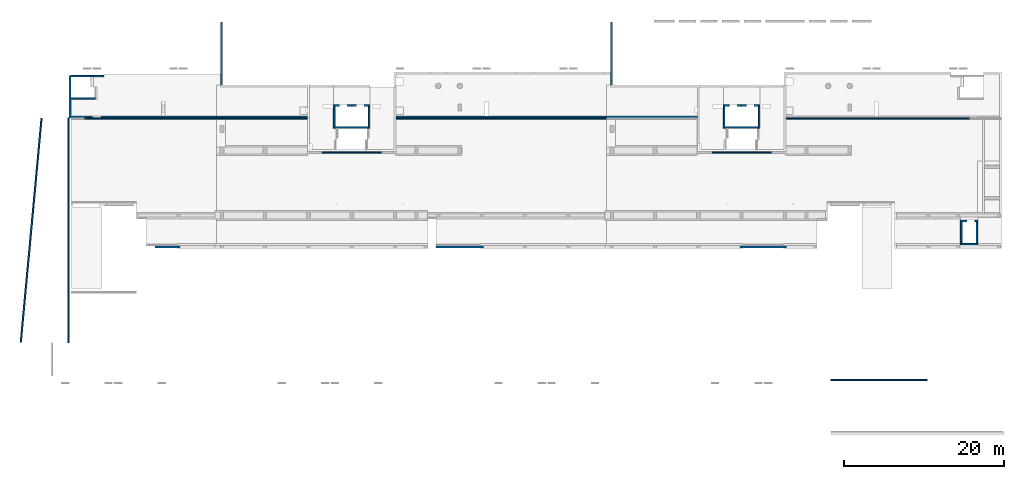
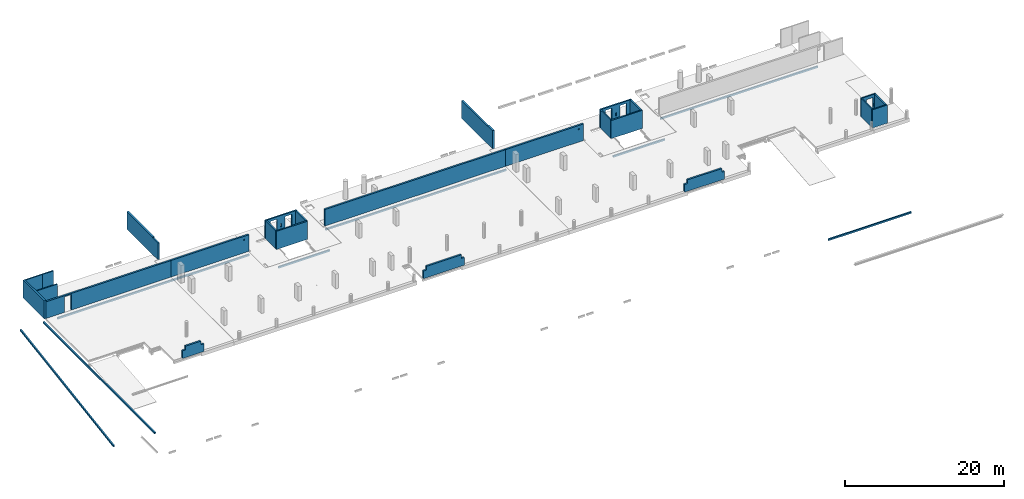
# One storey, part 6 of 10: 34 walls, 21 openings.
"""IFC2X3 building model written with IfcOpenShell, lengths in millimetres."""

import ifcopenshell
import ifcopenshell.guid

model = None  # the IFC model being written
_history = None  # IfcOwnerHistory: only IFC2X3 demands one
_inside = {}  # id of a spatial element -> (the spatial element, [elements in it])
_under = {}  # id of a project, library or spatial element -> (it, [spatial elements below it])
_declared = {}  # id of a project -> (the project, [libraries it declares])
_typed = {}  # id of a type object -> (the type object, [elements of that type])
_made_of = {}  # id of a material, layer set ... -> (it, [elements and type objects made of it])


def new_model(schema):
    """Start an empty IFC model of exactly this schema.

    Asked for "IFC4X3", IfcOpenShell would pick the latest addendum, in which some entities
    have other attributes; the version numbers below select the first issue.
    IFC2X3 requires an IfcOwnerHistory on every rooted entity: one is made here for all.
    """
    global model, _history
    if schema == "IFC4X3":
        model = ifcopenshell.file(schema_version=(4, 3, 0, 0))
    else:
        model = ifcopenshell.file(schema=schema)
    _inside.clear()
    _under.clear()
    _declared.clear()
    _typed.clear()
    _made_of.clear()
    _history = None
    if model.schema == "IFC2X3":
        org = make("IfcOrganization", Name="unknown")
        user = make(
            "IfcPersonAndOrganization",
            ThePerson=make("IfcPerson", FamilyName="unknown"),
            TheOrganization=org,
        )
        app = make(
            "IfcApplication",
            ApplicationDeveloper=org,
            Version="unknown",
            ApplicationFullName="unknown",
            ApplicationIdentifier="unknown",
        )
        _history = make(
            "IfcOwnerHistory",
            OwningUser=user,
            OwningApplication=app,
            ChangeAction="ADDED",
            CreationDate=0,
        )
    return model


def make(cls, **values):
    """One entity of the class cls with the attributes given. An attribute that is None is left unset."""
    return model.create_entity(
        cls, **{name: value for name, value in values.items() if value is not None}
    )


def entity(cls, *values):
    """Any entity or typed value of the class cls, its attributes in the order of the schema. None: left unset."""
    e = model.create_entity(cls)
    for i, value in enumerate(values):
        if value is not None:
            e[i] = value
    return e


def rooted(cls, **values):
    """An entity with a GlobalId (a new one), such as an element, a storey or a relation."""
    return make(cls, GlobalId=ifcopenshell.guid.new(), OwnerHistory=_history, **values)


def si_unit(unit_type, name, prefix=None):
    """IfcSIUnit, for example si_unit("LENGTHUNIT", "METRE", prefix="MILLI")."""
    return make("IfcSIUnit", UnitType=unit_type, Prefix=prefix, Name=name)


def converted_unit(unit_type, name, factor, base, dimensions=None, offset=None):
    """IfcConversionBasedUnit, such as the inch: factor (a typed value) times the base unit."""
    return make(
        "IfcConversionBasedUnit"
        if offset is None
        else "IfcConversionBasedUnitWithOffset",
        ConversionOffset=offset,
        Dimensions=None
        if dimensions is None
        else entity("IfcDimensionalExponents", *dimensions),
        UnitType=unit_type,
        Name=name,
        ConversionFactor=make(
            "IfcMeasureWithUnit", ValueComponent=factor, UnitComponent=base
        ),
    )


def derived_unit(unit_type, elements):
    """IfcDerivedUnit: a product of units, each with its exponent."""
    return make(
        "IfcDerivedUnit",
        Elements=[
            make("IfcDerivedUnitElement", Unit=unit, Exponent=power)
            for unit, power in elements
        ],
        UnitType=unit_type,
    )


def assignment(units):
    """IfcUnitAssignment: the units of a project."""
    return None if units is None else make("IfcUnitAssignment", Units=units)


def point(xyz):
    """IfcCartesianPoint."""
    return None if xyz is None else make("IfcCartesianPoint", Coordinates=xyz)


def direction(xyz):
    """IfcDirection."""
    return None if xyz is None else make("IfcDirection", DirectionRatios=xyz)


def frame(location, z_axis=None, x_axis=None):
    """IfcAxis2Placement3D, a coordinate frame: its origin and axes. An axis left out is left unset."""
    return make(
        "IfcAxis2Placement3D",
        Location=point(location),
        Axis=direction(z_axis),
        RefDirection=direction(x_axis),
    )


def frame_2d(location, x_axis=None):
    """IfcAxis2Placement2D, a coordinate frame in the plane: its origin and x axis."""
    return make(
        "IfcAxis2Placement2D", Location=point(location), RefDirection=direction(x_axis)
    )


def origin():
    """The frame at (0, 0, 0) with its axes left unset."""
    return frame((0.0, 0.0, 0.0))


def origin_2d_with_axis():
    """The frame at (0, 0) in the plane with the x axis (1, 0) written out."""
    return frame_2d((0.0, 0.0), x_axis=(1.0, 0.0))


def place(relative_to, where):
    """IfcLocalPlacement: puts the frame where relative to a parent placement (None: the world)."""
    return make(
        "IfcLocalPlacement", PlacementRelTo=relative_to, RelativePlacement=where
    )


def context(
    kind, dimensions, precision=None, world=None, true_north=None, identifier=None
):
    """IfcGeometricRepresentationContext, for example the 3D "Model" context."""
    return make(
        "IfcGeometricRepresentationContext",
        ContextIdentifier=identifier,
        ContextType=kind,
        CoordinateSpaceDimension=dimensions,
        Precision=precision,
        WorldCoordinateSystem=world,
        TrueNorth=true_north,
    )


def subcontext(parent, identifier, kind, view, scale=None):
    """IfcGeometricRepresentationSubContext, for example "Body" below "Model"."""
    return make(
        "IfcGeometricRepresentationSubContext",
        ContextIdentifier=identifier,
        ContextType=kind,
        ParentContext=parent,
        TargetScale=scale,
        TargetView=view,
    )


def project(units=None, contexts=None):
    """IfcProject with its units and contexts."""
    return rooted(
        "IfcProject",
        Name="project",
        RepresentationContexts=contexts,
        UnitsInContext=assignment(units),
    )


def spatial(cls, under=None, at=None, **own):
    """A site, building, storey or space (cls), placed at a placement, below another one or the project."""
    s = rooted(cls, ObjectPlacement=at, **own)
    if under is not None:
        _under.setdefault(under.id(), (under, []))[1].append(s)
    return s


def polyline(points):
    """IfcPolyline through the points."""
    return make("IfcPolyline", Points=[point(p) for p in points])


def profile(cls, at=None, kind="AREA", **sizes):
    """A parametric profile (cls). Its sizes go by their IFC names, for example OverallWidth=200.0."""
    return make(cls, ProfileType=kind, Position=at, **sizes)


def rectangle(**sizes):
    """IfcRectangleProfileDef."""
    return profile("IfcRectangleProfileDef", **sizes)


def circle(**sizes):
    """IfcCircleProfileDef."""
    return profile("IfcCircleProfileDef", **sizes)


def extrude(swept, where, along, depth):
    """IfcExtrudedAreaSolid: the profile swept, set in the frame where, extruded along a direction by depth."""
    return make(
        "IfcExtrudedAreaSolid",
        SweptArea=swept,
        Position=where,
        ExtrudedDirection=direction(along),
        Depth=depth,
    )


def clip(a, b, op="DIFFERENCE"):
    """IfcBooleanClippingResult: the solid a cut by the half space b."""
    return make(
        "IfcBooleanClippingResult", Operator=op, FirstOperand=a, SecondOperand=b
    )


def halfspace(plane, agree):
    """IfcHalfSpaceSolid: all space on one side of the plane z = 0 of the frame plane."""
    return make(
        "IfcHalfSpaceSolid",
        BaseSurface=make("IfcPlane", Position=plane),
        AgreementFlag=agree,
    )


def bounded_halfspace(plane, agree, where, boundary):
    """IfcPolygonalBoundedHalfSpace: a half space limited to a polygon's prism."""
    return make(
        "IfcPolygonalBoundedHalfSpace",
        BaseSurface=make("IfcPlane", Position=plane),
        AgreementFlag=agree,
        Position=where,
        PolygonalBoundary=boundary,
    )


def shape(context_of_items, identifier, shape_type, items):
    """IfcShapeRepresentation: the items that make up one representation, for example the "Body"."""
    return make(
        "IfcShapeRepresentation",
        ContextOfItems=context_of_items,
        RepresentationIdentifier=identifier,
        RepresentationType=shape_type,
        Items=items,
    )


def material(Name=None, Category=None):
    """IfcMaterial."""
    return make("IfcMaterial", Name=Name, Category=Category)


def layer(
    of_material, thickness, ventilated=None, Name=None, Category=None, Priority=None
):
    """IfcMaterialLayer: one layer of a wall or slab, of a material (None: an air gap)."""
    return make(
        "IfcMaterialLayer",
        Material=of_material,
        LayerThickness=thickness,
        IsVentilated=ventilated,
        Name=Name,
        Category=Category,
        Priority=Priority,
    )


def layer_set(layers, Name=None):
    """IfcMaterialLayerSet."""
    return make("IfcMaterialLayerSet", MaterialLayers=layers, LayerSetName=Name)


def layer_usage(for_layer_set, set_direction, sense, offset, extent=None):
    """IfcMaterialLayerSetUsage: how a layer set lies in its element."""
    return make(
        "IfcMaterialLayerSetUsage",
        ForLayerSet=for_layer_set,
        LayerSetDirection=set_direction,
        DirectionSense=sense,
        OffsetFromReferenceLine=offset,
        ReferenceExtent=extent,
    )


def made_of(thing, what):
    """Note that an element or type object is made of a material, layer set ...; save() writes the relation."""
    if what is not None:
        _made_of.setdefault(what.id(), (what, []))[1].append(thing)
    return thing


def type_object(cls, material=None, **own):
    """A type object (cls), such as IfcWallType, which elements share."""
    return made_of(rooted(cls, **own), material)


def element(
    cls,
    number,
    at=None,
    inside=None,
    cuts=None,
    type_object=None,
    material=None,
    context=None,
    identifier="Body",
    shape_type=None,
    held_by="IfcProductDefinitionShape",
    body=None,
    shapes=None,
    **own,
):
    """One element of the class cls, such as IfcWall. Its Tag is "e" and its number.

    at: its placement. inside: the storey or other place that contains it. cuts: it is an
    opening in that element (IfcRelVoidsElement). A single representation is given by context,
    identifier, shape_type and body (its items); several are given by shapes. held_by: the class
    of the entity that holds the representations. save() writes the other relations.
    """
    e = rooted(cls, Tag="e%d" % number, ObjectPlacement=at, **own)
    if body is not None:
        shapes = [shape(context, identifier, shape_type, body)]
    if shapes is not None:
        e.Representation = make(held_by, Representations=shapes)
    if inside is not None:
        _inside.setdefault(inside.id(), (inside, []))[1].append(e)
    if cuts is not None:
        rooted(
            "IfcRelVoidsElement", RelatingBuildingElement=cuts, RelatedOpeningElement=e
        )
    if type_object is not None:
        _typed.setdefault(type_object.id(), (type_object, []))[1].append(e)
    return made_of(e, material)


def aggregate(whole, parts):
    """IfcRelAggregates: a whole, such as a stair, and the parts it consists of."""
    return rooted("IfcRelAggregates", RelatingObject=whole, RelatedObjects=parts)


def save(model, path):
    """Write the relations noted so far, then the file.

    IfcRelAggregates (storeys below a building ...), IfcRelContainedInSpatialStructure (elements
    in a storey), IfcRelDefinesByType, IfcRelAssociatesMaterial and IfcRelDeclares: one each for
    every whole, place, type object, material and project.
    """
    for whole, parts in _under.values():
        aggregate(whole, parts)
    for where, things in _inside.values():
        rooted(
            "IfcRelContainedInSpatialStructure",
            RelatedElements=things,
            RelatingStructure=where,
        )
    for kind, things in _typed.values():
        rooted("IfcRelDefinesByType", RelatedObjects=things, RelatingType=kind)
    for what, things in _made_of.values():
        rooted("IfcRelAssociatesMaterial", RelatedObjects=things, RelatingMaterial=what)
    for by, libraries in _declared.values():
        rooted("IfcRelDeclares", RelatingContext=by, RelatedDefinitions=libraries)
    model.write(path)


model = new_model("IFC2X3")

# Units and contexts
model_context = context("Model", 3, precision=0.01, world=origin(), true_north=direction((6.12303176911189e-17, 1.0)))
body_context = subcontext(model_context, "Body", "Model", "MODEL_VIEW")
ifc_project = project(units=[si_unit("LENGTHUNIT", "METRE", prefix="MILLI"), si_unit("AREAUNIT", "SQUARE_METRE"), si_unit("VOLUMEUNIT", "CUBIC_METRE"), converted_unit("PLANEANGLEUNIT", "DEGREE", entity("IfcRatioMeasure", 0.0174532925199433), si_unit("PLANEANGLEUNIT", "RADIAN"), dimensions=[0, 0, 0, 0, 0, 0, 0]), si_unit("MASSUNIT", "GRAM", prefix="KILO"), derived_unit("MASSDENSITYUNIT", [(si_unit("MASSUNIT", "GRAM", prefix="KILO"), 1), (si_unit("LENGTHUNIT", "METRE"), -3)]), si_unit("TIMEUNIT", "SECOND"), si_unit("FREQUENCYUNIT", "HERTZ"), si_unit("THERMODYNAMICTEMPERATUREUNIT", "DEGREE_CELSIUS"), derived_unit("THERMALTRANSMITTANCEUNIT", [(si_unit("MASSUNIT", "GRAM", prefix="KILO"), 1), (si_unit("THERMODYNAMICTEMPERATUREUNIT", "KELVIN"), -1), (si_unit("TIMEUNIT", "SECOND"), -3)]), derived_unit("VOLUMETRICFLOWRATEUNIT", [(si_unit("LENGTHUNIT", "METRE"), 3), (si_unit("TIMEUNIT", "SECOND"), -1)]), si_unit("ELECTRICCURRENTUNIT", "AMPERE"), si_unit("ELECTRICVOLTAGEUNIT", "VOLT"), si_unit("POWERUNIT", "WATT"), si_unit("FORCEUNIT", "NEWTON", prefix="KILO"), si_unit("ILLUMINANCEUNIT", "LUX"), si_unit("LUMINOUSFLUXUNIT", "LUMEN"), si_unit("LUMINOUSINTENSITYUNIT", "CANDELA"), derived_unit("USERDEFINED", [(si_unit("MASSUNIT", "GRAM", prefix="KILO"), -1), (si_unit("LENGTHUNIT", "METRE"), -2), (si_unit("TIMEUNIT", "SECOND"), 3), (si_unit("LUMINOUSFLUXUNIT", "LUMEN"), 1)]), derived_unit("LINEARVELOCITYUNIT", [(si_unit("LENGTHUNIT", "METRE"), 1), (si_unit("TIMEUNIT", "SECOND"), -1)]), si_unit("PRESSUREUNIT", "PASCAL"), derived_unit("USERDEFINED", [(si_unit("LENGTHUNIT", "METRE"), -2), (si_unit("MASSUNIT", "GRAM", prefix="KILO"), 1), (si_unit("TIMEUNIT", "SECOND"), -2)])], contexts=[model_context])

# Site, building, storey
site_placement = place(None, origin())
site = spatial("IfcSite", under=ifc_project, at=site_placement, Name="Default", CompositionType="ELEMENT")
building_placement = place(site_placement, origin())
building = spatial("IfcBuilding", under=site, at=building_placement, Name="niet gebruiken", CompositionType="ELEMENT")
storey_placement = place(building_placement, frame((0.0, 0.0, 6610.0)))
storey = spatial("IfcBuildingStorey", under=building, at=storey_placement, Name="01c derde tussenverdieping", CompositionType="ELEMENT", Elevation=6610.0)

# Wall, opening
ifc_material_1 = material(Name="NLRS_f2_beton ihwg")
ifc_layer_1 = layer(ifc_material_1, 250.0)
ifc_layer_set_1 = layer_set([ifc_layer_1], Name="Basic Wall:NLRS_22.21_WA_beton ihwg d=250_gen")
ifc_layer_usage_1 = layer_usage(ifc_layer_set_1, "AXIS2", "NEGATIVE", 125.0)
wall_type_1 = type_object("IfcWallType", Name="Basic Wall:NLRS_22.21_WA_beton ihwg d=250_gen", PredefinedType="STANDARD", material=ifc_layer_set_1)
wall_1_placement = place(storey_placement, frame((86275.0, 41186.0, 0.0), z_axis=(0.0, 0.0, 1.0), x_axis=(-1.0, 0.0, 0.0)))
wall_1 = element("IfcWallStandardCase", 1, at=wall_1_placement, inside=storey, type_object=wall_type_1, material=ifc_layer_usage_1, Name="Basic Wall:NLRS_22.21_WA_beton ihwg d=250_gen", ObjectType="Basic Wall:NLRS_22.21_WA_beton ihwg d=250_gen", context=body_context, shape_type="SweptSolid", body=[
    extrude(rectangle(XDim=11305.0000000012, YDim=249.999999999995, at=frame_2d((5652.5000000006, 2.91322521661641e-12), x_axis=(-1.0, 0.0))), origin(), (0.0, 0.0, 1.0), 2550.0),
])
opening_1_placement = place(wall_1_placement, origin())
element("IfcOpeningElement", 2, at=opening_1_placement, cuts=wall_1, Name="Basic Wall:NLRS_22.21_WA_beton ihwg d=250_gen", ObjectType="Opening", context=body_context, shape_type="SweptSolid", body=[
    extrude(circle(Radius=100.0, at=origin_2d_with_axis()), frame((700.0, -125.0, 1995.0), z_axis=(0.0, 1.0, 0.0), x_axis=(-1.0, 0.0, 0.0)), (0.0, 0.0, 1.0), 250.000000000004),
])

ifc_layer_usage_2 = layer_usage(ifc_layer_set_1, "AXIS2", "NEGATIVE", 125.0)
wall_2_placement = place(storey_placement, frame((37675.0, 41186.0, 0.0), z_axis=(0.0, 0.0, 1.0), x_axis=(-1.0, 0.0, 0.0)))
wall_2 = element("IfcWallStandardCase", 3, at=wall_2_placement, inside=storey, type_object=wall_type_1, material=ifc_layer_usage_2, Name="Basic Wall:NLRS_22.21_WA_beton ihwg d=250_gen", ObjectType="Basic Wall:NLRS_22.21_WA_beton ihwg d=250_gen", context=body_context, shape_type="SweptSolid", body=[
    extrude(rectangle(XDim=11304.9999999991, YDim=249.999999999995, at=frame_2d((5652.49999999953, -1.4210854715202e-12), x_axis=(-1.0, 0.0))), origin(), (0.0, 0.0, 1.0), 2550.0),
])
opening_2_placement = place(wall_2_placement, origin())
element("IfcOpeningElement", 4, at=opening_2_placement, cuts=wall_2, Name="Basic Wall:NLRS_22.21_WA_beton ihwg d=250_gen", ObjectType="Opening", context=body_context, shape_type="SweptSolid", body=[
    extrude(circle(Radius=100.0, at=origin_2d_with_axis()), frame((700.0, -125.0, 2015.0), z_axis=(0.0, 1.0, 0.0), x_axis=(-1.0, 0.0, 0.0)), (0.0, 0.0, 1.0), 250.000000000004),
])

# Wall, openings
ifc_layer_usage_3 = layer_usage(ifc_layer_set_1, "AXIS2", "NEGATIVE", 125.0)
wall_3_placement = place(storey_placement, frame((26975.0, 45176.0, -40.0), z_axis=(0.0, 0.0, 1.0), x_axis=(0.0, 1.0, 0.0)))
wall_3 = element("IfcWallStandardCase", 5, at=wall_3_placement, inside=storey, type_object=wall_type_1, material=ifc_layer_usage_3, Name="Basic Wall:NLRS_22.21_WA_beton ihwg d=250_gen", ObjectType="Basic Wall:NLRS_22.21_WA_beton ihwg d=250_gen", context=body_context, shape_type="Clipping", body=[
    clip(clip(clip(extrude(rectangle(XDim=7810.00000000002, YDim=250.000000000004, at=frame_2d((3905.00000000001, 2.55795384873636e-13), x_axis=(-1.0, 0.0))), origin(), (0.0, 0.0, 1.0), 2720.00000000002), bounded_halfspace(frame((1320.0, -125.0, 2590.0), z_axis=(0.0, 0.0, -1.0), x_axis=(0.0, -1.0, 0.0)), True, frame((1320.0, -125.0, 2590.0), z_axis=(0.0, 0.0, -1.0), x_axis=(0.0, -1.0, 0.0)), polyline([(0.0, 0.0), (1.04820685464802e-09, 1320.0), (-230.0, 1320.0), (-250.0, 1320.0), (-250.0, 0.0), (-230.0, 0.0), (0.0, 0.0)]))), bounded_halfspace(frame((1320.0, 125.0, 2590.0), z_axis=(1.0, 0.0, 0.0), x_axis=(0.0, 0.0, 1.0)), True, frame((1320.0, 125.0, 2590.0), z_axis=(1.0, 0.0, 0.0), x_axis=(0.0, 0.0, 1.0)), polyline([(0.0, 0.0), (130.0, 0.0), (130.0, 250.0), (0.0, 250.0), (0.0, 20.0), (0.0, 0.0)]))), halfspace(frame((1320.0, 0.0, 2840.0), z_axis=(0.0, 0.0, 1.0), x_axis=(0.0, -1.0, 0.0)), False)),
])
opening_3_placement = place(wall_3_placement, origin())
element("IfcOpeningElement", 6, at=opening_3_placement, cuts=wall_3, Name="Basic Wall:NLRS_22.21_WA_beton ihwg d=250_gen", ObjectType="Opening", context=body_context, shape_type="SweptSolid", body=[
    extrude(rectangle(XDim=119.999999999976, YDim=6490.00000000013, at=frame_2d((-5.40012479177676e-13, 4.32009983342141e-12), x_axis=(1.0, 0.0))), frame((4565.0, 125.0, 2780.0), z_axis=(0.0, -1.0, 0.0), x_axis=(0.0, 0.0, -1.0)), (0.0, 0.0, 1.0), 250.0),
])
opening_4_placement = place(wall_3_placement, origin())
element("IfcOpeningElement", 7, at=opening_4_placement, cuts=wall_3, Name="Basic Wall:NLRS_22.21_WA_beton ihwg d=250_gen", ObjectType="Opening", context=body_context, shape_type="SweptSolid", body=[
    extrude(rectangle(XDim=39.9999999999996, YDim=1320.00000000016, at=frame_2d((0.0, -4.37694325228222e-12), x_axis=(1.0, 0.0))), frame((660.0, 125.0, 20.0), z_axis=(0.0, -1.0, 0.0), x_axis=(0.0, 0.0, 1.0)), (0.0, 0.0, 1.0), 250.0),
])

# Wall, opening
ifc_layer_usage_4 = layer_usage(ifc_layer_set_1, "AXIS2", "NEGATIVE", 125.0)
wall_4_placement = place(storey_placement, frame((26350.0, 41186.0, 0.0), z_axis=(0.0, 0.0, 1.0), x_axis=(-1.0, 0.0, 0.0)))
wall_4 = element("IfcWallStandardCase", 8, at=wall_4_placement, inside=storey, type_object=wall_type_1, material=ifc_layer_usage_4, Name="Basic Wall:NLRS_22.21_WA_beton ihwg d=250_gen", ObjectType="Basic Wall:NLRS_22.21_WA_beton ihwg d=250_gen", context=body_context, shape_type="SweptSolid", body=[
    extrude(rectangle(XDim=18124.9999999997, YDim=249.999999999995, at=frame_2d((9062.49999999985, -1.30739863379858e-12), x_axis=(-1.0, 0.0))), origin(), (0.0, 0.0, 1.0), 2550.0),
])
opening_5_placement = place(wall_4_placement, origin())
element("IfcOpeningElement", 9, at=opening_5_placement, cuts=wall_4, Name="Basic Wall:NLRS_22.21_WA_beton ihwg d=250_gen", ObjectType="Opening", context=body_context, shape_type="SweptSolid", body=[
    extrude(rectangle(XDim=2380.0, YDim=1025.0, at=frame_2d((1.08002495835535e-12, 5.6843418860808e-13), x_axis=(0.0, 1.0))), frame((14937.5000000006, -1399.0, 1190.0), z_axis=(0.0, 1.0, 0.0), x_axis=(-1.0, 0.0, 0.0)), (0.0, 0.0, 1.0), 3048.0),
])

# Wall
ifc_layer_usage_5 = layer_usage(ifc_layer_set_1, "AXIS2", "NEGATIVE", 125.0)
wall_5_placement = place(storey_placement, frame((74950.0, 41186.0, 0.0), z_axis=(0.0, 0.0, 1.0), x_axis=(-1.0, 0.0, 0.0)))
element("IfcWallStandardCase", 10, at=wall_5_placement, inside=storey, type_object=wall_type_1, material=ifc_layer_usage_5, Name="Basic Wall:NLRS_22.21_WA_beton ihwg d=250_gen", ObjectType="Basic Wall:NLRS_22.21_WA_beton ihwg d=250_gen", context=body_context, shape_type="SweptSolid", body=[
    extrude(rectangle(XDim=26224.9999999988, YDim=249.999999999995, at=frame_2d((13112.4999999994, -2.26663132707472e-12), x_axis=(-1.0, 0.0))), origin(), (0.0, 0.0, 1.0), 2550.0),
])

# Wall, openings
ifc_layer_usage_6 = layer_usage(ifc_layer_set_1, "AXIS2", "NEGATIVE", 125.0)
wall_6_placement = place(storey_placement, frame((75575.0, 45176.0, -40.0), z_axis=(0.0, 0.0, 1.0), x_axis=(0.0, 1.0, 0.0)))
wall_6 = element("IfcWallStandardCase", 11, at=wall_6_placement, inside=storey, type_object=wall_type_1, material=ifc_layer_usage_6, Name="Basic Wall:NLRS_22.21_WA_beton ihwg d=250_gen", ObjectType="Basic Wall:NLRS_22.21_WA_beton ihwg d=250_gen", context=body_context, shape_type="Clipping", body=[
    clip(extrude(rectangle(XDim=7810.00000000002, YDim=249.999999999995, at=frame_2d((3905.00000000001, 2.42295072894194e-12), x_axis=(-1.0, 0.0))), origin(), (0.0, 0.0, 1.0), 2840.0), halfspace(frame((0.0, -125.0, 2840.0), z_axis=(0.0, 0.0, 1.0), x_axis=(0.0, 1.0, 0.0)), False)),
])
opening_6_placement = place(wall_6_placement, origin())
element("IfcOpeningElement", 12, at=opening_6_placement, cuts=wall_6, Name="Basic Wall:NLRS_22.21_WA_beton ihwg d=250_gen", ObjectType="Opening", context=body_context, shape_type="SweptSolid", body=[
    extrude(rectangle(XDim=119.999999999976, YDim=6490.00000000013, at=frame_2d((-5.40012479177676e-13, -4.32009983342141e-12), x_axis=(1.0, 0.0))), frame((4565.0, 125.0, 2780.0), z_axis=(0.0, -1.0, 0.0), x_axis=(0.0, 0.0, -1.0)), (0.0, 0.0, 1.0), 250.0),
])
opening_7_placement = place(wall_6_placement, origin())
element("IfcOpeningElement", 13, at=opening_7_placement, cuts=wall_6, Name="Basic Wall:NLRS_22.21_WA_beton ihwg d=250_gen", ObjectType="Opening", context=body_context, shape_type="SweptSolid", body=[
    extrude(rectangle(XDim=39.9999999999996, YDim=1320.00000000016, at=frame_2d((0.0, 4.37694325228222e-12), x_axis=(1.0, 0.0))), frame((660.0, 125.0, 20.0), z_axis=(0.0, -1.0, 0.0), x_axis=(0.0, 0.0, 1.0)), (0.0, 0.0, 1.0), 250.0),
])

# Walls
ifc_material_2 = material(Name="NLRS_f2_beton prefab")
ifc_layer_2 = layer(ifc_material_2, 250.0)
ifc_layer_set_2 = layer_set([ifc_layer_2], Name="Basic Wall:NLRS_22.21_WA_beton prefab d=250_gen")
ifc_layer_usage_7 = layer_usage(ifc_layer_set_2, "AXIS2", "NEGATIVE", 125.0)
wall_type_2 = type_object("IfcWallType", Name="Basic Wall:NLRS_22.21_WA_beton prefab d=250_gen", PredefinedType="STANDARD", material=ifc_layer_set_2)
wall_7_placement = place(storey_placement, frame((8100.0, 41061.0, 20.0), z_axis=(0.0, 0.0, 1.0), x_axis=(0.0, 1.0, 0.0)))
element("IfcWallStandardCase", 14, at=wall_7_placement, inside=storey, type_object=wall_type_2, material=ifc_layer_usage_7, Name="Basic Wall:NLRS_22.21_WA_beton prefab d=250_gen", ObjectType="Basic Wall:NLRS_22.21_WA_beton prefab d=250_gen", context=body_context, shape_type="SweptSolid", body=[
    extrude(rectangle(XDim=5294.99999999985, YDim=249.999999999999, at=frame_2d((2647.49999999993, 2.41584530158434e-13), x_axis=(-1.0, 0.0))), origin(), (0.0, 0.0, 1.0), 2780.0),
])
ifc_layer_3 = layer(ifc_material_2, 180.0)
ifc_layer_set_3 = layer_set([ifc_layer_3], Name="Basic Wall:NLRS_22.21_WA_beton prefab d=180_gen")
ifc_layer_usage_8 = layer_usage(ifc_layer_set_3, "AXIS2", "NEGATIVE", 90.0)
wall_type_3 = type_object("IfcWallType", Name="Basic Wall:NLRS_22.21_WA_beton prefab d=180_gen", PredefinedType="STANDARD", material=ifc_layer_set_3)
wall_8_placement = place(storey_placement, frame((10670.0, 46266.0, 20.0), z_axis=(0.0, 0.0, 1.0), x_axis=(-1.0, 0.0, 0.0)))
element("IfcWallStandardCase", 15, at=wall_8_placement, inside=storey, type_object=wall_type_3, material=ifc_layer_usage_8, Name="Basic Wall:NLRS_22.21_WA_beton prefab d=180_gen", ObjectType="Basic Wall:NLRS_22.21_WA_beton prefab d=180_gen", context=body_context, shape_type="SweptSolid", body=[
    extrude(rectangle(XDim=2445.00027841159, YDim=179.999999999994, at=frame_2d((1222.50013920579, 1.92557081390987e-12), x_axis=(-1.0, 0.0))), origin(), (0.0, 0.0, 1.0), 2780.0),
])
ifc_layer_usage_9 = layer_usage(ifc_layer_set_3, "AXIS2", "POSITIVE", -90.0)
wall_9_placement = place(storey_placement, frame((12274.9999049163, 46266.0, 20.0), z_axis=(0.0, 0.0, 1.0), x_axis=(-1.0, 0.0, 0.0)))
element("IfcWallStandardCase", 16, at=wall_9_placement, inside=storey, type_object=wall_type_3, material=ifc_layer_usage_9, Name="Basic Wall:NLRS_22.21_WA_beton prefab d=180_gen", ObjectType="Basic Wall:NLRS_22.21_WA_beton prefab d=180_gen", context=body_context, shape_type="SweptSolid", body=[
    extrude(rectangle(XDim=1604.99990491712, YDim=179.999999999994, at=frame_2d((802.499952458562, 0.0), x_axis=(-1.0, 0.0))), origin(), (0.0, 0.0, 1.0), 2780.00000000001),
])
ifc_layer_usage_10 = layer_usage(ifc_layer_set_3, "AXIS2", "NEGATIVE", 90.0)
wall_10_placement = place(storey_placement, frame((11250.0003666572, 43486.0, 20.0), z_axis=(0.0, 0.0, 1.0), x_axis=(-1.0, 0.0, 0.0)))
element("IfcWallStandardCase", 17, at=wall_10_placement, inside=storey, type_object=wall_type_3, material=ifc_layer_usage_10, Name="Basic Wall:NLRS_22.21_WA_beton prefab d=180_gen", ObjectType="Basic Wall:NLRS_22.21_WA_beton prefab d=180_gen", context=body_context, shape_type="SweptSolid", body=[
    extrude(rectangle(XDim=3025.00036665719, YDim=179.999999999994, at=frame_2d((1512.5001833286, -1.36424205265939e-12), x_axis=(-1.0, 0.0))), origin(), (0.0, 0.0, 1.0), 2780.0),
])
wall_type_4 = type_object("IfcWallType", Name="NLRS_21.21_SF_WPB_oplegnok prefabbeton_gen:200x250", PredefinedType="NOTDEFINED", material=ifc_material_2)
wall_11_placement = place(storey_placement, frame((7775.0, 13006.0, -550.0), z_axis=(0.0, 0.0, 1.0), x_axis=(0.0, 1.0, 0.0)))
element("IfcWall", 18, at=wall_11_placement, inside=storey, type_object=wall_type_4, material=ifc_material_2, Name="NLRS_21.21_SF_WPB_oplegnok prefabbeton_gen:200x250", ObjectType="NLRS_21.21_SF_WPB_oplegnok prefabbeton_gen:200x250", context=body_context, shape_type="SweptSolid", body=[
    extrude(rectangle(XDim=28035.0000000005, YDim=200.0, at=origin_2d_with_axis()), frame((14017.5000000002, -100.0, 0.0), z_axis=(0.0, 0.0, 1.0), x_axis=(-1.0, 0.0, 0.0)), (0.0, 0.0, 1.0), 250.000000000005),
])
wall_12_placement = place(storey_placement, frame((1848.69443190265, 13080.0121906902, -550.0), z_axis=(0.0, 0.0, 1.0), x_axis=(0.0, 1.0, 0.0)))
element("IfcWall", 19, at=wall_12_placement, inside=storey, type_object=wall_type_4, material=ifc_material_2, Name="NLRS_21.21_SF_WPB_oplegnok prefabbeton_gen:200x250", ObjectType="NLRS_21.21_SF_WPB_oplegnok prefabbeton_gen:200x250", context=body_context, shape_type="SweptSolid", body=[
    extrude(rectangle(XDim=200.0, YDim=28029.9419790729, at=frame_2d((26.6636108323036, 5.45696821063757e-12), x_axis=(1.0, 0.0))), frame((13961.9150324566, -1419.68659984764, 0.0), z_axis=(0.0, 0.0, 1.0), x_axis=(0.0922987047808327, 0.995731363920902, 0.0)), (0.0, 0.0, 1.0), 250.000000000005),
])
wall_13_placement = place(storey_placement, frame((102925.0, 8296.0, -1375.0)))
element("IfcWall", 20, at=wall_13_placement, inside=storey, type_object=wall_type_4, material=ifc_material_2, Name="NLRS_21.21_SF_WPB_oplegnok prefabbeton_gen:200x250", ObjectType="NLRS_21.21_SF_WPB_oplegnok prefabbeton_gen:200x250", context=body_context, shape_type="SweptSolid", body=[
    extrude(rectangle(XDim=12024.9999999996, YDim=200.0, at=frame_2d((-8.64019966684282e-12, 0.0), x_axis=(1.0, 0.0))), frame((6012.49999999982, 100.0, 0.0)), (0.0, 0.0, 1.0), 250.000000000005),
])

# Wall, openings
ifc_layer_4 = layer(ifc_material_2, 200.0)
ifc_layer_set_4 = layer_set([ifc_layer_4], Name="Basic Wall:NLRS_22.21_WA_beton prefab d=200_gen")
ifc_layer_usage_11 = layer_usage(ifc_layer_set_4, "AXIS2", "NEGATIVE", 100.0)
wall_type_5 = type_object("IfcWallType", Name="Basic Wall:NLRS_22.21_WA_beton prefab d=200_gen", PredefinedType="STANDARD", material=ifc_layer_set_4)
wall_14_placement = place(storey_placement, frame((40924.9998491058, 42596.0, -70.0)))
wall_14 = element("IfcWallStandardCase", 21, at=wall_14_placement, inside=storey, type_object=wall_type_5, material=ifc_layer_usage_11, Name="Basic Wall:NLRS_22.21_WA_beton prefab d=200_gen", ObjectType="Basic Wall:NLRS_22.21_WA_beton prefab d=200_gen", context=body_context, shape_type="SweptSolid", body=[
    extrude(rectangle(XDim=4549.9999999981, YDim=200.000000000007, at=frame_2d((2274.99999999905, 0.0), x_axis=(-1.0, 0.0))), origin(), (0.0, 0.0, 1.0), 2780.00000000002),
])
opening_8_placement = place(wall_14_placement, origin())
element("IfcOpeningElement", 22, at=opening_8_placement, cuts=wall_14, Name="Basic Wall:NLRS_22.21_WA_beton prefab d=200_gen", ObjectType="Opening", context=body_context, shape_type="SweptSolid", body=[
    extrude(rectangle(XDim=2430.0, YDim=980.000000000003, at=origin_2d_with_axis()), frame((1220.0, -1624.0, 1195.0), z_axis=(0.0, 1.0, 0.0), x_axis=(0.0, 0.0, 1.0)), (0.0, 0.0, 1.0), 3048.0),
])
opening_9_placement = place(wall_14_placement, origin())
element("IfcOpeningElement", 23, at=opening_9_placement, cuts=wall_14, Name="Basic Wall:NLRS_22.21_WA_beton prefab d=200_gen", ObjectType="Opening", context=body_context, shape_type="SweptSolid", body=[
    extrude(rectangle(XDim=2430.0, YDim=980.000000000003, at=origin_2d_with_axis()), frame((3330.0, -1624.0, 1195.0), z_axis=(0.0, 1.0, 0.0), x_axis=(0.0, 0.0, 1.0)), (0.0, 0.0, 1.0), 3048.0),
])
opening_10_placement = place(wall_14_placement, origin())
element("IfcOpeningElement", 24, at=opening_10_placement, cuts=wall_14, Name="Basic Wall:NLRS_22.21_WA_beton prefab d=200_gen", ObjectType="Opening", context=body_context, shape_type="SweptSolid", body=[
    extrude(rectangle(XDim=505.000000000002, YDim=135.000000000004, at=origin_2d_with_axis()), frame((2275.000150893, -1624.0, 1272.5), z_axis=(0.0, 1.0, 0.0), x_axis=(0.0, 0.0, 1.0)), (0.0, 0.0, 1.0), 3048.0),
])

# Walls
ifc_layer_usage_12 = layer_usage(ifc_layer_set_4, "AXIS2", "NEGATIVE", 100.0)
wall_15_placement = place(storey_placement, frame((41024.9998491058, 39946.0, -70.0), z_axis=(0.0, 0.0, 1.0), x_axis=(0.0, 1.0, 0.0)))
element("IfcWallStandardCase", 25, at=wall_15_placement, inside=storey, type_object=wall_type_5, material=ifc_layer_usage_12, Name="Basic Wall:NLRS_22.21_WA_beton prefab d=200_gen", ObjectType="Basic Wall:NLRS_22.21_WA_beton prefab d=200_gen", context=body_context, shape_type="SweptSolid", body=[
    extrude(rectangle(XDim=2549.99999999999, YDim=200.000000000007, at=frame_2d((1275.0, 0.0), x_axis=(-1.0, 0.0))), origin(), (0.0, 0.0, 1.0), 2780.00000000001),
])
ifc_layer_usage_13 = layer_usage(ifc_layer_set_4, "AXIS2", "NEGATIVE", 100.0)
wall_16_placement = place(storey_placement, frame((45374.9998491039, 42496.0, -70.0), z_axis=(0.0, 0.0, 1.0), x_axis=(0.0, -1.0, 0.0)))
element("IfcWallStandardCase", 26, at=wall_16_placement, inside=storey, type_object=wall_type_5, material=ifc_layer_usage_13, Name="Basic Wall:NLRS_22.21_WA_beton prefab d=200_gen", ObjectType="Basic Wall:NLRS_22.21_WA_beton prefab d=200_gen", context=body_context, shape_type="SweptSolid", body=[
    extrude(rectangle(XDim=2549.99999999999, YDim=200.000000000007, at=frame_2d((1275.0, 2.34479102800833e-13), x_axis=(-1.0, 0.0))), origin(), (0.0, 0.0, 1.0), 2780.00000000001),
])
ifc_layer_usage_14 = layer_usage(ifc_layer_set_4, "AXIS2", "NEGATIVE", 100.0)
wall_17_placement = place(storey_placement, frame((45474.999849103, 39846.0, -70.0), z_axis=(0.0, 0.0, 1.0), x_axis=(-1.0, 0.0, 0.0)))
element("IfcWallStandardCase", 27, at=wall_17_placement, inside=storey, type_object=wall_type_5, material=ifc_layer_usage_14, Name="Basic Wall:NLRS_22.21_WA_beton prefab d=200_gen", ObjectType="Basic Wall:NLRS_22.21_WA_beton prefab d=200_gen", context=body_context, shape_type="SweptSolid", body=[
    extrude(rectangle(XDim=4549.99999999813, YDim=200.000000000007, at=frame_2d((2274.99999999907, 0.0), x_axis=(-1.0, 0.0))), origin(), (0.0, 0.0, 1.0), 2780.00000000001),
])

# Wall, openings
ifc_layer_usage_15 = layer_usage(ifc_layer_set_4, "AXIS2", "NEGATIVE", 100.0)
wall_18_placement = place(storey_placement, frame((89525.0, 42596.0, -70.0)))
wall_18 = element("IfcWallStandardCase", 28, at=wall_18_placement, inside=storey, type_object=wall_type_5, material=ifc_layer_usage_15, Name="Basic Wall:NLRS_22.21_WA_beton prefab d=200_gen", ObjectType="Basic Wall:NLRS_22.21_WA_beton prefab d=200_gen", context=body_context, shape_type="SweptSolid", body=[
    extrude(rectangle(XDim=4549.9999999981, YDim=200.000000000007, at=frame_2d((2274.99999999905, 0.0), x_axis=(-1.0, 0.0))), origin(), (0.0, 0.0, 1.0), 2780.00000000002),
])
opening_11_placement = place(wall_18_placement, origin())
element("IfcOpeningElement", 29, at=opening_11_placement, cuts=wall_18, Name="Basic Wall:NLRS_22.21_WA_beton prefab d=200_gen", ObjectType="Opening", context=body_context, shape_type="SweptSolid", body=[
    extrude(rectangle(XDim=2430.0, YDim=980.000000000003, at=frame_2d((0.0, 8.66862137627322e-12), x_axis=(1.0, 0.0))), frame((3330.0, -1624.0, 1195.0), z_axis=(0.0, 1.0, 0.0), x_axis=(0.0, 0.0, 1.0)), (0.0, 0.0, 1.0), 3048.0),
])
opening_12_placement = place(wall_18_placement, origin())
element("IfcOpeningElement", 30, at=opening_12_placement, cuts=wall_18, Name="Basic Wall:NLRS_22.21_WA_beton prefab d=200_gen", ObjectType="Opening", context=body_context, shape_type="SweptSolid", body=[
    extrude(rectangle(XDim=2430.0, YDim=980.000000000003, at=frame_2d((0.0, -8.66862137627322e-12), x_axis=(1.0, 0.0))), frame((1220.0, -1624.0, 1195.0), z_axis=(0.0, 1.0, 0.0), x_axis=(0.0, 0.0, 1.0)), (0.0, 0.0, 1.0), 3048.0),
])
opening_13_placement = place(wall_18_placement, origin())
element("IfcOpeningElement", 31, at=opening_13_placement, cuts=wall_18, Name="Basic Wall:NLRS_22.21_WA_beton prefab d=200_gen", ObjectType="Opening", context=body_context, shape_type="SweptSolid", body=[
    extrude(rectangle(XDim=505.000000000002, YDim=135.000000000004, at=frame_2d((0.0, 8.66151594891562e-12), x_axis=(1.0, 0.0))), frame((2275.000150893, -1624.0, 1272.5), z_axis=(0.0, 1.0, 0.0), x_axis=(0.0, 0.0, 1.0)), (0.0, 0.0, 1.0), 3048.0),
])

# Walls
ifc_layer_usage_16 = layer_usage(ifc_layer_set_4, "AXIS2", "NEGATIVE", 100.0)
wall_19_placement = place(storey_placement, frame((89625.0, 39946.0, -70.0), z_axis=(0.0, 0.0, 1.0), x_axis=(0.0, 1.0, 0.0)))
element("IfcWallStandardCase", 32, at=wall_19_placement, inside=storey, type_object=wall_type_5, material=ifc_layer_usage_16, Name="Basic Wall:NLRS_22.21_WA_beton prefab d=200_gen", ObjectType="Basic Wall:NLRS_22.21_WA_beton prefab d=200_gen", context=body_context, shape_type="SweptSolid", body=[
    extrude(rectangle(XDim=2549.99999999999, YDim=199.999999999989, at=frame_2d((1275.0, 0.0), x_axis=(-1.0, 0.0))), origin(), (0.0, 0.0, 1.0), 2780.00000000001),
])
ifc_layer_usage_17 = layer_usage(ifc_layer_set_4, "AXIS2", "NEGATIVE", 100.0)
wall_20_placement = place(storey_placement, frame((93975.0, 42496.0, -70.0), z_axis=(0.0, 0.0, 1.0), x_axis=(0.0, -1.0, 0.0)))
element("IfcWallStandardCase", 33, at=wall_20_placement, inside=storey, type_object=wall_type_5, material=ifc_layer_usage_17, Name="Basic Wall:NLRS_22.21_WA_beton prefab d=200_gen", ObjectType="Basic Wall:NLRS_22.21_WA_beton prefab d=200_gen", context=body_context, shape_type="SweptSolid", body=[
    extrude(rectangle(XDim=2549.99999999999, YDim=199.999999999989, at=frame_2d((1275.0, -4.09272615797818e-12), x_axis=(-1.0, 0.0))), origin(), (0.0, 0.0, 1.0), 2780.00000000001),
])
ifc_layer_usage_18 = layer_usage(ifc_layer_set_4, "AXIS2", "NEGATIVE", 100.0)
wall_21_placement = place(storey_placement, frame((94075.0, 39846.0, -70.0), z_axis=(0.0, 0.0, 1.0), x_axis=(-1.0, 0.0, 0.0)))
element("IfcWallStandardCase", 34, at=wall_21_placement, inside=storey, type_object=wall_type_5, material=ifc_layer_usage_18, Name="Basic Wall:NLRS_22.21_WA_beton prefab d=200_gen", ObjectType="Basic Wall:NLRS_22.21_WA_beton prefab d=200_gen", context=body_context, shape_type="SweptSolid", body=[
    extrude(rectangle(XDim=4549.99999999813, YDim=200.000000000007, at=frame_2d((2274.99999999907, 0.0), x_axis=(-1.0, 0.0))), origin(), (0.0, 0.0, 1.0), 2780.00000000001),
])
ifc_layer_usage_19 = layer_usage(ifc_layer_set_4, "AXIS2", "NEGATIVE", 100.0)
wall_22_placement = place(storey_placement, frame((121225.0, 25326.0, 30.0), z_axis=(0.0, 0.0, 1.0), x_axis=(-1.0, 0.0, 0.0)))
element("IfcWallStandardCase", 35, at=wall_22_placement, inside=storey, type_object=wall_type_5, material=ifc_layer_usage_19, Name="Basic Wall:NLRS_22.21_WA_beton prefab d=200_gen", ObjectType="Basic Wall:NLRS_22.21_WA_beton prefab d=200_gen", context=body_context, shape_type="SweptSolid", body=[
    extrude(rectangle(XDim=2150.00000000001, YDim=199.999999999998, at=frame_2d((1075.00000000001, -2.48689957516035e-13), x_axis=(-1.0, 0.0))), origin(), (0.0, 0.0, 1.0), 2780.0),
])

# Wall, openings
ifc_layer_usage_20 = layer_usage(ifc_layer_set_4, "AXIS2", "NEGATIVE", 100.0)
wall_23_placement = place(storey_placement, frame((121225.0, 28206.0, 30.0), z_axis=(0.0, 0.0, 1.0), x_axis=(-1.0, 0.0, 0.0)))
wall_23 = element("IfcWallStandardCase", 36, at=wall_23_placement, inside=storey, type_object=wall_type_5, material=ifc_layer_usage_20, Name="Basic Wall:NLRS_22.21_WA_beton prefab d=200_gen", ObjectType="Basic Wall:NLRS_22.21_WA_beton prefab d=200_gen", context=body_context, shape_type="SweptSolid", body=[
    extrude(rectangle(XDim=2150.00000000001, YDim=199.999999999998, at=frame_2d((1075.00000000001, -2.48689957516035e-13), x_axis=(-1.0, 0.0))), origin(), (0.0, 0.0, 1.0), 2780.0),
])
opening_14_placement = place(wall_23_placement, origin())
element("IfcOpeningElement", 37, at=opening_14_placement, cuts=wall_23, Name="Basic Wall:NLRS_22.21_WA_beton prefab d=200_gen", ObjectType="Opening", context=body_context, shape_type="SweptSolid", body=[
    extrude(rectangle(XDim=2340.0, YDim=980.000000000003, at=frame_2d((8.66862137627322e-12, 5.6843418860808e-13), x_axis=(0.0, 1.0))), frame((870.0, -1424.0, 1140.0), z_axis=(0.0, 1.0, 0.0), x_axis=(-1.0, 0.0, 0.0)), (0.0, 0.0, 1.0), 3048.0),
])
opening_15_placement = place(wall_23_placement, origin())
element("IfcOpeningElement", 38, at=opening_15_placement, cuts=wall_23, Name="Basic Wall:NLRS_22.21_WA_beton prefab d=200_gen", ObjectType="Opening", context=body_context, shape_type="SweptSolid", body=[
    extrude(rectangle(XDim=505.000000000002, YDim=75.0000000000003, at=origin_2d_with_axis()), frame((237.500000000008, -1624.0, 1172.5), z_axis=(0.0, 1.0, 0.0), x_axis=(0.0, 0.0, 1.0)), (0.0, 0.0, 1.0), 3048.0),
])

# Walls
ifc_layer_usage_21 = layer_usage(ifc_layer_set_4, "AXIS2", "NEGATIVE", 100.0)
wall_24_placement = place(storey_placement, frame((119175.0, 25426.0, 30.0), z_axis=(0.0, 0.0, 1.0), x_axis=(0.0, 1.0, 0.0)))
element("IfcWallStandardCase", 39, at=wall_24_placement, inside=storey, type_object=wall_type_5, material=ifc_layer_usage_21, Name="Basic Wall:NLRS_22.21_WA_beton prefab d=200_gen", ObjectType="Basic Wall:NLRS_22.21_WA_beton prefab d=200_gen", context=body_context, shape_type="SweptSolid", body=[
    extrude(rectangle(XDim=2680.0, YDim=199.999999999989, at=frame_2d((1340.0, 0.0), x_axis=(-1.0, 0.0))), origin(), (0.0, 0.0, 1.0), 2780.0),
])
ifc_layer_usage_22 = layer_usage(ifc_layer_set_4, "AXIS2", "NEGATIVE", 100.0)
wall_25_placement = place(storey_placement, frame((121125.0, 25426.0, 30.0), z_axis=(0.0, 0.0, 1.0), x_axis=(0.0, 1.0, 0.0)))
element("IfcWallStandardCase", 40, at=wall_25_placement, inside=storey, type_object=wall_type_5, material=ifc_layer_usage_22, Name="Basic Wall:NLRS_22.21_WA_beton prefab d=200_gen", ObjectType="Basic Wall:NLRS_22.21_WA_beton prefab d=200_gen", context=body_context, shape_type="SweptSolid", body=[
    extrude(rectangle(XDim=2680.0, YDim=199.999999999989, at=frame_2d((1340.0, 0.0), x_axis=(-1.0, 0.0))), origin(), (0.0, 0.0, 1.0), 2780.0),
])
wall_type_6 = type_object("IfcWallType", Name="NLRS_21.21_SF_WPB_oplegnok ihwg beton_gen:200x250", PredefinedType="NOTDEFINED", material=ifc_material_1)
wall_26_placement = place(storey_placement, frame((97345.0, 40861.0, -580.0)))
element("IfcWall", 41, at=wall_26_placement, inside=storey, type_object=wall_type_6, material=ifc_material_1, Name="NLRS_21.21_SF_WPB_oplegnok ihwg beton_gen:200x250", ObjectType="NLRS_21.21_SF_WPB_oplegnok ihwg beton_gen:200x250", context=body_context, shape_type="SweptSolid", body=[
    extrude(rectangle(XDim=22879.9999999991, YDim=199.999999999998, at=origin_2d_with_axis()), frame((11440.0, 100.0, 0.0)), (0.0, 0.0, 1.0), 250.000000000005),
])
wall_27_placement = place(storey_placement, frame((48745.0, 40861.0, -580.0)))
element("IfcWall", 42, at=wall_27_placement, inside=storey, type_object=wall_type_6, material=ifc_material_1, Name="NLRS_21.21_SF_WPB_oplegnok ihwg beton_gen:200x250", ObjectType="NLRS_21.21_SF_WPB_oplegnok ihwg beton_gen:200x250", context=body_context, shape_type="SweptSolid", body=[
    extrude(rectangle(XDim=26204.9999999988, YDim=199.999999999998, at=frame_2d((-4.54747350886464e-12, -4.33431068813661e-12), x_axis=(1.0, 0.0))), frame((13102.4999999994, 100.0, 0.0)), (0.0, 0.0, 1.0), 250.000000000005),
])
wall_28_placement = place(storey_placement, frame((26370.0, 40861.0, -580.0)))
element("IfcWall", 43, at=wall_28_placement, inside=storey, type_object=wall_type_6, material=ifc_material_1, Name="NLRS_21.21_SF_WPB_oplegnok ihwg beton_gen:200x250", ObjectType="NLRS_21.21_SF_WPB_oplegnok ihwg beton_gen:200x250", context=body_context, shape_type="SweptSolid", body=[
    extrude(rectangle(XDim=11285.0, YDim=199.999999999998, at=frame_2d((-2.27373675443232e-12, -4.33431068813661e-12), x_axis=(1.0, 0.0))), frame((5642.50000000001, 100.0, 0.0)), (0.0, 0.0, 1.0), 250.000000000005),
])
wall_29_placement = place(storey_placement, frame((9850.0, 40861.0, -580.0)))
element("IfcWall", 44, at=wall_29_placement, inside=storey, type_object=wall_type_6, material=ifc_material_1, Name="NLRS_21.21_SF_WPB_oplegnok ihwg beton_gen:200x250", ObjectType="NLRS_21.21_SF_WPB_oplegnok ihwg beton_gen:200x250", context=body_context, shape_type="SweptSolid", body=[
    extrude(rectangle(XDim=16500.0, YDim=199.999999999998, at=frame_2d((2.72848410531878e-12, 4.33431068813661e-12), x_axis=(1.0, 0.0))), frame((8250.0, 100.0, 0.0)), (0.0, 0.0, 1.0), 250.000000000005),
])
wall_30_placement = place(storey_placement, frame((39455.0181333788, 36656.0, -580.0)))
element("IfcWall", 45, at=wall_30_placement, inside=storey, type_object=wall_type_6, material=ifc_material_1, Name="NLRS_21.21_SF_WPB_oplegnok ihwg beton_gen:200x250", ObjectType="NLRS_21.21_SF_WPB_oplegnok ihwg beton_gen:200x250", context=body_context, shape_type="SweptSolid", body=[
    extrude(rectangle(XDim=7489.98186661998, YDim=200.000000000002, at=frame_2d((-4.32009983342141e-12, -4.33431068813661e-12), x_axis=(1.0, 0.0))), frame((3744.99093330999, 100.0, 0.0)), (0.0, 0.0, 1.0), 250.000000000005),
])
wall_31_placement = place(storey_placement, frame((88055.0181333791, 36656.0, -580.0)))
element("IfcWall", 46, at=wall_31_placement, inside=storey, type_object=wall_type_6, material=ifc_material_1, Name="NLRS_21.21_SF_WPB_oplegnok ihwg beton_gen:200x250", ObjectType="NLRS_21.21_SF_WPB_oplegnok ihwg beton_gen:200x250", context=body_context, shape_type="SweptSolid", body=[
    extrude(rectangle(XDim=7489.98186661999, YDim=200.000000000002, at=frame_2d((-8.64019966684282e-12, 0.0), x_axis=(1.0, 0.0))), frame((3744.99093330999, 100.0, 0.0)), (0.0, 0.0, 1.0), 250.000000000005),
])

# Wall, openings
ifc_layer_5 = layer(ifc_material_2, 250.0)
ifc_layer_set_5 = layer_set([ifc_layer_5], Name="Basic Wall:NLRS_16.21_WA_beton prefab d=250_gen")
ifc_layer_usage_23 = layer_usage(ifc_layer_set_5, "AXIS2", "NEGATIVE", 125.0)
wall_type_7 = type_object("IfcWallType", Name="Basic Wall:NLRS_16.21_WA_beton prefab d=250_gen", PredefinedType="STANDARD", material=ifc_layer_set_5)
wall_32_placement = place(storey_placement, frame((18700.0, 24976.0, 30.0)))
wall_32 = element("IfcWallStandardCase", 47, at=wall_32_placement, inside=storey, type_object=wall_type_7, material=ifc_layer_usage_23, Name="Basic Wall:NLRS_16.21_WA_beton prefab d=250_gen", ObjectType="Basic Wall:NLRS_16.21_WA_beton prefab d=250_gen", context=body_context, shape_type="SweptSolid", body=[
    extrude(rectangle(XDim=3100.00000000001, YDim=250.000000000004, at=frame_2d((1550.0, -1.84741111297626e-13), x_axis=(-1.0, 0.0))), origin(), (0.0, 0.0, 1.0), 1740.0),
])
opening_16_placement = place(wall_32_placement, origin())
element("IfcOpeningElement", 48, at=opening_16_placement, cuts=wall_32, Name="Basic Wall:NLRS_16.21_WA_beton prefab d=250_gen", ObjectType="Opening", context=body_context, shape_type="SweptSolid", body=[
    extrude(rectangle(XDim=560.0, YDim=419.999999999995, at=frame_2d((0.0, 2.17426077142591e-12), x_axis=(1.0, 0.0))), frame((2890.0, 125.0, 1460.0), z_axis=(0.0, -1.0, 0.0), x_axis=(0.0, 0.0, 1.0)), (0.0, 0.0, 1.0), 250.0),
])
opening_17_placement = place(wall_32_placement, origin())
element("IfcOpeningElement", 49, at=opening_17_placement, cuts=wall_32, Name="Basic Wall:NLRS_16.21_WA_beton prefab d=250_gen", ObjectType="Opening", context=body_context, shape_type="SweptSolid", body=[
    extrude(rectangle(XDim=560.0, YDim=420.000000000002, at=frame_2d((-1.08002495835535e-12, 0.0), x_axis=(0.0, 1.0))), frame((210.0, 125.0, 1460.0), z_axis=(0.0, -1.0, 0.0), x_axis=(-1.0, 0.0, 0.0)), (0.0, 0.0, 1.0), 250.0),
])

ifc_layer_usage_24 = layer_usage(ifc_layer_set_5, "AXIS2", "NEGATIVE", 125.0)
wall_33_placement = place(storey_placement, frame((53690.0, 24976.0, 30.0)))
wall_33 = element("IfcWallStandardCase", 50, at=wall_33_placement, inside=storey, type_object=wall_type_7, material=ifc_layer_usage_24, Name="Basic Wall:NLRS_16.21_WA_beton prefab d=250_gen", ObjectType="Basic Wall:NLRS_16.21_WA_beton prefab d=250_gen", context=body_context, shape_type="SweptSolid", body=[
    extrude(rectangle(XDim=5909.99999999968, YDim=250.000000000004, at=frame_2d((2954.99999999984, 2.1316282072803e-14), x_axis=(-1.0, 0.0))), origin(), (0.0, 0.0, 1.0), 1740.0),
])
opening_18_placement = place(wall_33_placement, origin())
element("IfcOpeningElement", 51, at=opening_18_placement, cuts=wall_33, Name="Basic Wall:NLRS_16.21_WA_beton prefab d=250_gen", ObjectType="Opening", context=body_context, shape_type="SweptSolid", body=[
    extrude(rectangle(XDim=560.000000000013, YDim=420.000000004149, at=frame_2d((0.0, 8.66862137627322e-12), x_axis=(1.0, 0.0))), frame((5700.0, 125.0, 1460.0), z_axis=(0.0, -1.0, 0.0), x_axis=(0.0, 0.0, 1.0)), (0.0, 0.0, 1.0), 250.0),
])
opening_19_placement = place(wall_33_placement, origin())
element("IfcOpeningElement", 52, at=opening_19_placement, cuts=wall_33, Name="Basic Wall:NLRS_16.21_WA_beton prefab d=250_gen", ObjectType="Opening", context=body_context, shape_type="SweptSolid", body=[
    extrude(rectangle(XDim=560.000000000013, YDim=430.000000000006, at=frame_2d((0.0, 0.0), x_axis=(0.0, 1.0))), frame((215.0, 125.0, 1460.0), z_axis=(0.0, -1.0, 0.0), x_axis=(-1.0, 0.0, 0.0)), (0.0, 0.0, 1.0), 250.0),
])

ifc_layer_usage_25 = layer_usage(ifc_layer_set_5, "AXIS2", "NEGATIVE", 125.0)
wall_34_placement = place(storey_placement, frame((91600.0, 24976.0, 30.0)))
wall_34 = element("IfcWallStandardCase", 53, at=wall_34_placement, inside=storey, type_object=wall_type_7, material=ifc_layer_usage_25, Name="Basic Wall:NLRS_16.21_WA_beton prefab d=250_gen", ObjectType="Basic Wall:NLRS_16.21_WA_beton prefab d=250_gen", context=body_context, shape_type="SweptSolid", body=[
    extrude(rectangle(XDim=5799.99999999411, YDim=250.000000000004, at=frame_2d((2899.99999999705, -2.20268248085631e-13), x_axis=(-1.0, 0.0))), origin(), (0.0, 0.0, 1.0), 1740.0),
])
opening_20_placement = place(wall_34_placement, origin())
element("IfcOpeningElement", 54, at=opening_20_placement, cuts=wall_34, Name="Basic Wall:NLRS_16.21_WA_beton prefab d=250_gen", ObjectType="Opening", context=body_context, shape_type="SweptSolid", body=[
    extrude(rectangle(XDim=560.000000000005, YDim=420.000000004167, at=origin_2d_with_axis()), frame((5590.0, 125.0, 1460.0), z_axis=(0.0, -1.0, 0.0), x_axis=(0.0, 0.0, 1.0)), (0.0, 0.0, 1.0), 250.0),
])
opening_21_placement = place(wall_34_placement, origin())
element("IfcOpeningElement", 55, at=opening_21_placement, cuts=wall_34, Name="Basic Wall:NLRS_16.21_WA_beton prefab d=250_gen", ObjectType="Opening", context=body_context, shape_type="SweptSolid", body=[
    extrude(rectangle(XDim=560.000000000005, YDim=419.999999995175, at=frame_2d((8.66862137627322e-12, 0.0), x_axis=(0.0, 1.0))), frame((210.0, 125.0, 1460.0), z_axis=(0.0, -1.0, 0.0), x_axis=(-1.0, 0.0, 0.0)), (0.0, 0.0, 1.0), 250.0),
])

save(model, "model.ifc")
